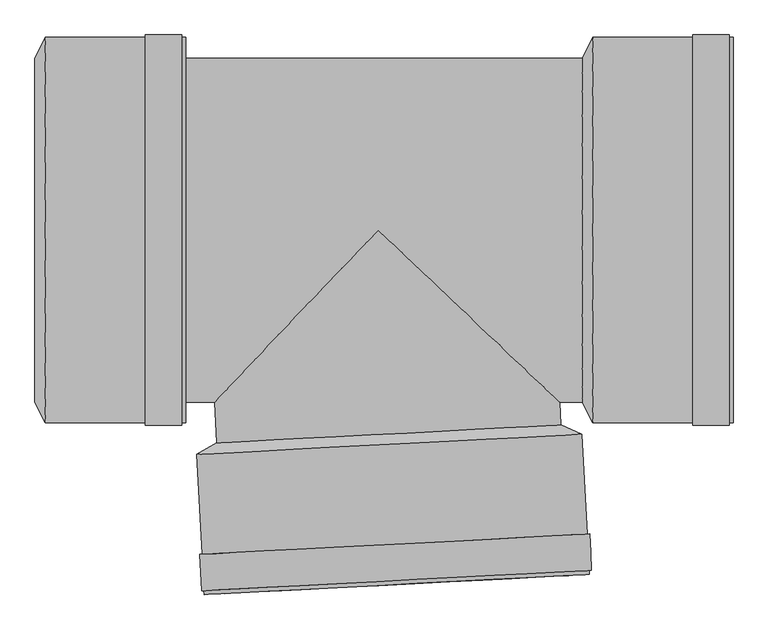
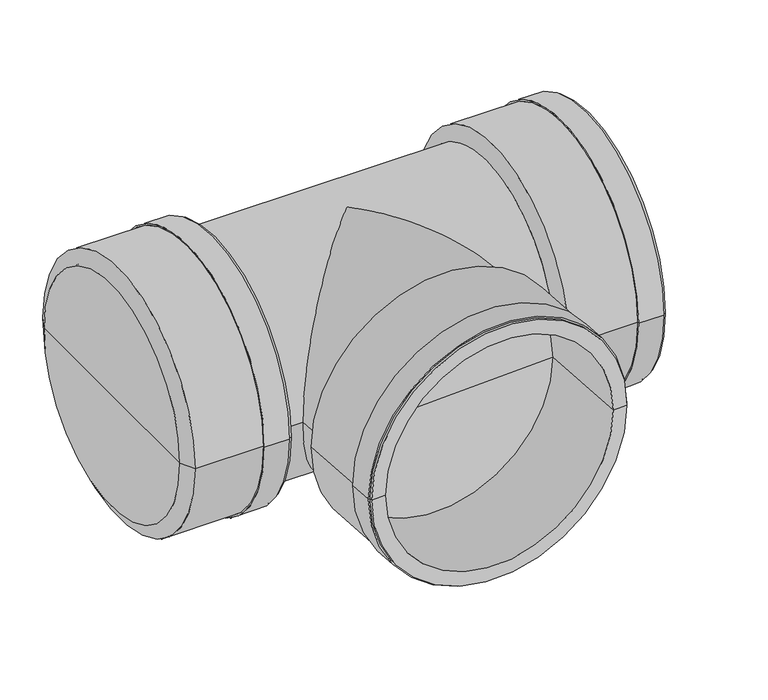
"""IFC4 building model written with IfcOpenShell, lengths in millimetres: pipe fitting geometry, pf_KGEA : pf_KGEA."""

from ifc_helpers import new_model, si_unit, frame, origin, place, context, project, spatial, polyline, circle_curve, ellipse_curve, source, transform, mapped, element, save
from ifc_brep_helpers import plane_surface, cylinder_surface, revolved_surface, advanced_brep


def pipe_fitting_98616ae5(model_context):
    return source(origin(), model_context, "Body", "AdvancedBrep", [
        advanced_brep(
        [(-234.1397727, -309.1776461, 0.0), (265.1749947, -283.009668, 0.0), (296.0240167, -296.5136617, 0.0), (-263.4082487, -325.8322644, 0.0), (15.517611, -296.0936571, 0.0), (-252.7369472, -529.4528265, 0.0), (306.6953181, -500.1342238, 0.0), (276.6365691, -501.7095361, 0.0), (-222.6781982, -527.8775142, 0.0), (-253.0404958, -523.6607752, 0.0), (306.3917696, -494.3421725, 0.0), (-256.4358362, -523.8387175, 0.0), (309.78711, -494.1642303, 0.0), (-259.2044083, -471.0112151, 0.0), (307.0185379, -441.3367279, 0.0), (-255.8090679, -470.8332728, 0.0), (303.6231975, -441.5146701, 0.0), (-233.3494997, -324.2569521, 0.0), (265.9652677, -298.088974, 0.0), (16.307884, -311.172963, 0.0)],
        [
            (0, 1, circle_curve(frame((15.517611, -296.0936571, 0.0), z_axis=(0.05233595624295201, -0.9986295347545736, 0.0), x_axis=(0.9986295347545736, 0.05233595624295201, 0.0)), 250.0)),
            (1, 2),
            (2, 3, circle_curve(frame((16.307884, -311.172963, 0.0), z_axis=(-0.05233595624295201, 0.9986295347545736, 0.0), x_axis=(0.9986295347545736, 0.05233595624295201, 0.0)), 280.1)),
            (3, 0),
            (1, 0, circle_curve(frame((15.517611, -296.0936571, 0.0), z_axis=(0.05233595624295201, -0.9986295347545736, 0.0), x_axis=(0.9986295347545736, 0.05233595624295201, 0.0)), 250.0)),
            (3, 2, circle_curve(frame((16.307884, -311.172963, 0.0), z_axis=(-0.05233595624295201, 0.9986295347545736, 0.0), x_axis=(0.9986295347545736, 0.05233595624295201, 0.0)), 280.1)),
            (4, 1),
            (0, 4),
            (5, 6, circle_curve(frame((26.9791854, -514.7935252, 0.0), z_axis=(0.05233595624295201, -0.9986295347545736, 0.0), x_axis=(0.9986295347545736, 0.05233595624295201, 0.0)), 280.1)),
            (6, 7),
            (7, 8, circle_curve(frame((26.9791854, -514.7935252, 0.0), z_axis=(-0.05233595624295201, 0.9986295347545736, 0.0), x_axis=(0.9986295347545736, 0.05233595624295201, 0.0)), 250.0)),
            (8, 5),
            (6, 5, circle_curve(frame((26.9791854, -514.7935252, 0.0), z_axis=(0.05233595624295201, -0.9986295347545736, 0.0), x_axis=(0.9986295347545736, 0.05233595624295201, 0.0)), 280.1)),
            (8, 7, circle_curve(frame((26.9791854, -514.7935252, 0.0), z_axis=(-0.05233595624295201, 0.9986295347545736, 0.0), x_axis=(0.9986295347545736, 0.05233595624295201, 0.0)), 250.0)),
            (9, 10, circle_curve(frame((26.6756369, -509.0014739, 0.0), z_axis=(0.05233595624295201, -0.9986295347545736, 0.0), x_axis=(0.9986295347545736, 0.05233595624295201, 0.0)), 280.1)),
            (10, 6),
            (5, 9),
            (10, 9, circle_curve(frame((26.6756369, -509.0014739, 0.0), z_axis=(0.05233595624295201, -0.9986295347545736, 0.0), x_axis=(0.9986295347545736, 0.05233595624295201, 0.0)), 280.1)),
            (11, 12, circle_curve(frame((26.6756369, -509.0014739, 0.0), z_axis=(0.05233595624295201, -0.9986295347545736, 0.0), x_axis=(0.9986295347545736, 0.05233595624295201, 0.0)), 283.5)),
            (12, 10),
            (9, 11),
            (12, 11, circle_curve(frame((26.6756369, -509.0014739, 0.0), z_axis=(0.05233595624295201, -0.9986295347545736, 0.0), x_axis=(0.9986295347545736, 0.05233595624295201, 0.0)), 283.5)),
            (13, 14, circle_curve(frame((23.9070648, -456.1739715, 0.0), z_axis=(0.05233595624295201, -0.9986295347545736, 0.0), x_axis=(0.9986295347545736, 0.05233595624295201, 0.0)), 283.5)),
            (14, 12),
            (11, 13),
            (14, 13, circle_curve(frame((23.9070648, -456.1739715, 0.0), z_axis=(0.05233595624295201, -0.9986295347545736, 0.0), x_axis=(0.9986295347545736, 0.05233595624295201, 0.0)), 283.5)),
            (15, 16, circle_curve(frame((23.9070648, -456.1739715, 0.0), z_axis=(0.05233595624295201, -0.9986295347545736, 0.0), x_axis=(0.9986295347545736, 0.05233595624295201, 0.0)), 280.1)),
            (16, 14),
            (13, 15),
            (16, 15, circle_curve(frame((23.9070648, -456.1739715, 0.0), z_axis=(0.05233595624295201, -0.9986295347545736, 0.0), x_axis=(0.9986295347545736, 0.05233595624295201, 0.0)), 280.1)),
            (2, 16),
            (15, 3),
            (17, 18, circle_curve(frame((16.307884, -311.172963, 0.0), z_axis=(0.05233595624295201, -0.9986295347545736, 0.0), x_axis=(0.9986295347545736, 0.05233595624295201, 0.0)), 250.0)),
            (18, 19),
            (19, 17),
            (18, 17, circle_curve(frame((16.307884, -311.172963, 0.0), z_axis=(0.05233595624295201, -0.9986295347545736, 0.0), x_axis=(0.9986295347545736, 0.05233595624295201, 0.0)), 250.0)),
            (7, 18),
            (17, 8),
        ],
        [
            revolved_surface(polyline([(296.0240167, -296.5136617, 0.0), (265.1749947, -283.009668, 0.0)]), (15.517611, -296.0936571, 0.0), (-0.05233595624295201, 0.9986295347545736, 0.0)),
            plane_surface(frame((15.517611, -296.0936571, 0.0), z_axis=(-0.05233595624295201, 0.9986295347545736, 0.0), x_axis=(0.9986295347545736, 0.05233595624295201, 0.0))),
            plane_surface(frame((26.9791854, -514.7935252, 0.0), z_axis=(0.05233595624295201, -0.9986295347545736, 0.0), x_axis=(0.9986295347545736, 0.05233595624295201, 0.0))),
            cylinder_surface(frame((15.517611, -296.0936571, 0.0), z_axis=(-0.05233595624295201, 0.9986295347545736, 0.0), x_axis=(0.9986295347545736, 0.05233595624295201, 0.0)), 280.1),
            plane_surface(frame((26.6756369, -509.0014739, 0.0), z_axis=(0.05233595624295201, -0.9986295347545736, 0.0), x_axis=(0.9986295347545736, 0.05233595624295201, 0.0))),
            cylinder_surface(frame((15.517611, -296.0936571, 0.0), z_axis=(-0.05233595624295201, 0.9986295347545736, 0.0), x_axis=(0.9986295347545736, 0.05233595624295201, 0.0)), 283.5),
            plane_surface(frame((23.9070648, -456.1739715, 0.0), z_axis=(-0.05233595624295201, 0.9986295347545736, 0.0), x_axis=(0.9986295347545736, 0.05233595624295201, 0.0))),
            plane_surface(frame((16.307884, -311.172963, 0.0), z_axis=(0.05233595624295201, -0.9986295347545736, 0.0), x_axis=(0.9986295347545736, 0.05233595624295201, 0.0))),
            revolved_surface(polyline([(265.96526762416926, -298.0889739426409, 0.0), (276.6365691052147, -501.70953613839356, 0.0)]), (15.517611, -296.0936571, 0.0), (-0.05233595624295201, 0.9986295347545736, 0.0)),
        ],
        [
            (0, [[1, 2, 3, 4]]),
            (0, [[5, -4, 6, -2]]),
            (1, [[7, -1, 8]]),
            (1, [[-8, -5, -7]]),
            (2, [[9, 10, 11, 12]]),
            (2, [[13, -12, 14, -10]]),
            (3, [[15, 16, -9, 17]]),
            (3, [[18, -17, -13, -16]]),
            (4, [[19, 20, -15, 21]]),
            (4, [[22, -21, -18, -20]]),
            (5, [[23, 24, -19, 25]]),
            (5, [[26, -25, -22, -24]]),
            (6, [[27, 28, -23, 29]]),
            (6, [[30, -29, -26, -28]]),
            (3, [[-3, 31, -27, 32]]),
            (3, [[-6, -32, -30, -31]]),
            (7, [[33, 34, 35]]),
            (7, [[36, -35, -34]]),
            (8, [[-11, 37, -33, 38]]),
            (8, [[-14, -38, -36, -37]]),
        ],
    ),
        advanced_brep(
        [(296.5, -250.0, 0.0), (296.5, 250.0, 0.0), (311.6, 280.1, 0.0), (311.6, -280.1, 0.0), (296.5, 0.0, 0.0), (515.5, -280.1, 0.0), (515.5, 280.1, 0.0), (515.5, 250.0, 0.0), (515.5, -250.0, 0.0), (509.7, -280.1, 0.0), (509.7, 280.1, 0.0), (509.7, -283.5, 0.0), (509.7, 283.5, 0.0), (456.8, -283.5, 0.0), (456.8, 283.5, 0.0), (456.8, -280.1, 0.0), (456.8, 280.1, 0.0), (311.6, -250.0, 0.0), (311.6, 250.0, 0.0), (311.6, 0.0, 0.0)],
        [
            (0, 1, circle_curve(frame((296.5, 0.0, 0.0), z_axis=(1.0, 0.0, 0.0), x_axis=(0.0, 1.0, 0.0)), 250.0)),
            (1, 2),
            (2, 3, circle_curve(frame((311.6, 0.0, 0.0), z_axis=(-1.0, 0.0, 0.0), x_axis=(0.0, 1.0, 0.0)), 280.1)),
            (3, 0),
            (1, 0, circle_curve(frame((296.5, 0.0, 0.0), z_axis=(1.0, 0.0, 0.0), x_axis=(0.0, 1.0, 0.0)), 250.0)),
            (3, 2, circle_curve(frame((311.6, 0.0, 0.0), z_axis=(-1.0, 0.0, 0.0), x_axis=(0.0, 1.0, 0.0)), 280.1)),
            (4, 1),
            (0, 4),
            (5, 6, circle_curve(frame((515.5, 0.0, 0.0), z_axis=(1.0, 0.0, 0.0), x_axis=(0.0, 1.0, 0.0)), 280.1)),
            (6, 7),
            (7, 8, circle_curve(frame((515.5, 0.0, 0.0), z_axis=(-1.0, 0.0, 0.0), x_axis=(0.0, 1.0, 0.0)), 250.0)),
            (8, 5),
            (6, 5, circle_curve(frame((515.5, 0.0, 0.0), z_axis=(1.0, 0.0, 0.0), x_axis=(0.0, 1.0, 0.0)), 280.1)),
            (8, 7, circle_curve(frame((515.5, 0.0, 0.0), z_axis=(-1.0, 0.0, 0.0), x_axis=(0.0, 1.0, 0.0)), 250.0)),
            (9, 10, circle_curve(frame((509.7, 0.0, 0.0), z_axis=(1.0, 0.0, 0.0), x_axis=(0.0, 1.0, 0.0)), 280.1)),
            (10, 6),
            (5, 9),
            (10, 9, circle_curve(frame((509.7, 0.0, 0.0), z_axis=(1.0, 0.0, 0.0), x_axis=(0.0, 1.0, 0.0)), 280.1)),
            (11, 12, circle_curve(frame((509.7, 0.0, 0.0), z_axis=(1.0, 0.0, 0.0), x_axis=(0.0, 1.0, 0.0)), 283.5)),
            (12, 10),
            (9, 11),
            (12, 11, circle_curve(frame((509.7, 0.0, 0.0), z_axis=(1.0, 0.0, 0.0), x_axis=(0.0, 1.0, 0.0)), 283.5)),
            (13, 14, circle_curve(frame((456.8, 0.0, 0.0), z_axis=(1.0, 0.0, 0.0), x_axis=(0.0, 1.0, 0.0)), 283.5)),
            (14, 12),
            (11, 13),
            (14, 13, circle_curve(frame((456.8, 0.0, 0.0), z_axis=(1.0, 0.0, 0.0), x_axis=(0.0, 1.0, 0.0)), 283.5)),
            (15, 16, circle_curve(frame((456.8, 0.0, 0.0), z_axis=(1.0, 0.0, 0.0), x_axis=(0.0, 1.0, 0.0)), 280.1)),
            (16, 14),
            (13, 15),
            (16, 15, circle_curve(frame((456.8, 0.0, 0.0), z_axis=(1.0, 0.0, 0.0), x_axis=(0.0, 1.0, 0.0)), 280.1)),
            (2, 16),
            (15, 3),
            (17, 18, circle_curve(frame((311.6, 0.0, 0.0), z_axis=(1.0, 0.0, 0.0), x_axis=(0.0, 1.0, 0.0)), 250.0)),
            (18, 19),
            (19, 17),
            (18, 17, circle_curve(frame((311.6, 0.0, 0.0), z_axis=(1.0, 0.0, 0.0), x_axis=(0.0, 1.0, 0.0)), 250.0)),
            (7, 18),
            (17, 8),
        ],
        [
            revolved_surface(polyline([(311.6, 280.1, 0.0), (296.5, 250.0, 0.0)]), (296.5, 0.0, 0.0), (-1.0, 0.0, 0.0)),
            plane_surface(frame((296.5, 0.0, 0.0), z_axis=(-1.0, 0.0, 0.0), x_axis=(0.0, 1.0, 0.0))),
            plane_surface(frame((515.5, 0.0, 0.0), z_axis=(1.0, 0.0, 0.0), x_axis=(0.0, 1.0, 0.0))),
            cylinder_surface(frame((296.5, 0.0, 0.0), z_axis=(-1.0, 0.0, 0.0), x_axis=(0.0, 1.0, 0.0)), 280.1),
            plane_surface(frame((509.7, 0.0, 0.0), z_axis=(1.0, 0.0, 0.0), x_axis=(0.0, 1.0, 0.0))),
            cylinder_surface(frame((296.5, 0.0, 0.0), z_axis=(-1.0, 0.0, 0.0), x_axis=(0.0, 1.0, 0.0)), 283.5),
            plane_surface(frame((456.8, 0.0, 0.0), z_axis=(-1.0, 0.0, 0.0), x_axis=(0.0, 1.0, 0.0))),
            plane_surface(frame((311.6, 0.0, 0.0), z_axis=(1.0, 0.0, 0.0), x_axis=(0.0, 1.0, 0.0))),
            revolved_surface(polyline([(311.6, 250.0, 0.0), (515.5, 250.0, 0.0)]), (296.5, 0.0, 0.0), (-1.0, 0.0, 0.0)),
        ],
        [
            (0, [[1, 2, 3, 4]]),
            (0, [[5, -4, 6, -2]]),
            (1, [[7, -1, 8]]),
            (1, [[-8, -5, -7]]),
            (2, [[9, 10, 11, 12]]),
            (2, [[13, -12, 14, -10]]),
            (3, [[15, 16, -9, 17]]),
            (3, [[18, -17, -13, -16]]),
            (4, [[19, 20, -15, 21]]),
            (4, [[22, -21, -18, -20]]),
            (5, [[23, 24, -19, 25]]),
            (5, [[26, -25, -22, -24]]),
            (6, [[27, 28, -23, 29]]),
            (6, [[30, -29, -26, -28]]),
            (3, [[-3, 31, -27, 32]]),
            (3, [[-6, -32, -30, -31]]),
            (7, [[33, 34, 35]]),
            (7, [[36, -35, -34]]),
            (8, [[-11, 37, -33, 38]]),
            (8, [[-14, -38, -36, -37]]),
        ],
    ),
        advanced_brep(
        [(-498.6, -250.0, 0.0), (-498.6, 250.0, 0.0), (-483.5, 280.1, 0.0), (-483.5, -280.1, 0.0), (-498.6, 0.0, 0.0), (-279.6, -280.1, 0.0), (-279.6, 280.1, 0.0), (-279.6, 250.0, 0.0), (-279.6, -250.0, 0.0), (-285.4, -280.1, 0.0), (-285.4, 280.1, 0.0), (-285.4, -283.5, 0.0), (-285.4, 283.5, 0.0), (-338.3, -283.5, 0.0), (-338.3, 283.5, 0.0), (-338.3, -280.1, 0.0), (-338.3, 280.1, 0.0), (-483.5, -250.0, 0.0), (-483.5, 250.0, 0.0), (-483.5, 0.0, 0.0)],
        [
            (0, 1, circle_curve(frame((-498.6, 0.0, 0.0), z_axis=(1.0, 0.0, 0.0), x_axis=(0.0, 1.0, 0.0)), 250.0)),
            (1, 2),
            (2, 3, circle_curve(frame((-483.5, 0.0, 0.0), z_axis=(-1.0, 0.0, 0.0), x_axis=(0.0, 1.0, 0.0)), 280.1)),
            (3, 0),
            (1, 0, circle_curve(frame((-498.6, 0.0, 0.0), z_axis=(1.0, 0.0, 0.0), x_axis=(0.0, 1.0, 0.0)), 250.0)),
            (3, 2, circle_curve(frame((-483.5, 0.0, 0.0), z_axis=(-1.0, 0.0, 0.0), x_axis=(0.0, 1.0, 0.0)), 280.1)),
            (4, 1),
            (0, 4),
            (5, 6, circle_curve(frame((-279.6, 0.0, 0.0), z_axis=(1.0, 0.0, 0.0), x_axis=(0.0, 1.0, 0.0)), 280.1)),
            (6, 7),
            (7, 8, circle_curve(frame((-279.6, 0.0, 0.0), z_axis=(-1.0, 0.0, 0.0), x_axis=(0.0, 1.0, 0.0)), 250.0)),
            (8, 5),
            (6, 5, circle_curve(frame((-279.6, 0.0, 0.0), z_axis=(1.0, 0.0, 0.0), x_axis=(0.0, 1.0, 0.0)), 280.1)),
            (8, 7, circle_curve(frame((-279.6, 0.0, 0.0), z_axis=(-1.0, 0.0, 0.0), x_axis=(0.0, 1.0, 0.0)), 250.0)),
            (9, 10, circle_curve(frame((-285.4, 0.0, 0.0), z_axis=(1.0, 0.0, 0.0), x_axis=(0.0, 1.0, 0.0)), 280.1)),
            (10, 6),
            (5, 9),
            (10, 9, circle_curve(frame((-285.4, 0.0, 0.0), z_axis=(1.0, 0.0, 0.0), x_axis=(0.0, 1.0, 0.0)), 280.1)),
            (11, 12, circle_curve(frame((-285.4, 0.0, 0.0), z_axis=(1.0, 0.0, 0.0), x_axis=(0.0, 1.0, 0.0)), 283.5)),
            (12, 10),
            (9, 11),
            (12, 11, circle_curve(frame((-285.4, 0.0, 0.0), z_axis=(1.0, 0.0, 0.0), x_axis=(0.0, 1.0, 0.0)), 283.5)),
            (13, 14, circle_curve(frame((-338.3, 0.0, 0.0), z_axis=(1.0, 0.0, 0.0), x_axis=(0.0, 1.0, 0.0)), 283.5)),
            (14, 12),
            (11, 13),
            (14, 13, circle_curve(frame((-338.3, 0.0, 0.0), z_axis=(1.0, 0.0, 0.0), x_axis=(0.0, 1.0, 0.0)), 283.5)),
            (15, 16, circle_curve(frame((-338.3, 0.0, 0.0), z_axis=(1.0, 0.0, 0.0), x_axis=(0.0, 1.0, 0.0)), 280.1)),
            (16, 14),
            (13, 15),
            (16, 15, circle_curve(frame((-338.3, 0.0, 0.0), z_axis=(1.0, 0.0, 0.0), x_axis=(0.0, 1.0, 0.0)), 280.1)),
            (2, 16),
            (15, 3),
            (17, 18, circle_curve(frame((-483.5, 0.0, 0.0), z_axis=(1.0, 0.0, 0.0), x_axis=(0.0, 1.0, 0.0)), 250.0)),
            (18, 19),
            (19, 17),
            (18, 17, circle_curve(frame((-483.5, 0.0, 0.0), z_axis=(1.0, 0.0, 0.0), x_axis=(0.0, 1.0, 0.0)), 250.0)),
            (7, 18),
            (17, 8),
        ],
        [
            revolved_surface(polyline([(-483.5, 280.1, 0.0), (-498.6, 250.0, 0.0)]), (-498.6, 0.0, 0.0), (-1.0, 0.0, 0.0)),
            plane_surface(frame((-498.6, 0.0, 0.0), z_axis=(-1.0, 0.0, 0.0), x_axis=(0.0, 1.0, 0.0))),
            plane_surface(frame((-279.6, 0.0, 0.0), z_axis=(1.0, 0.0, 0.0), x_axis=(0.0, 1.0, 0.0))),
            cylinder_surface(frame((-498.6, 0.0, 0.0), z_axis=(-1.0, 0.0, 0.0), x_axis=(0.0, 1.0, 0.0)), 280.1),
            plane_surface(frame((-285.4, 0.0, 0.0), z_axis=(1.0, 0.0, 0.0), x_axis=(0.0, 1.0, 0.0))),
            cylinder_surface(frame((-498.6, 0.0, 0.0), z_axis=(-1.0, 0.0, 0.0), x_axis=(0.0, 1.0, 0.0)), 283.5),
            plane_surface(frame((-338.3, 0.0, 0.0), z_axis=(-1.0, 0.0, 0.0), x_axis=(0.0, 1.0, 0.0))),
            plane_surface(frame((-483.5, 0.0, 0.0), z_axis=(1.0, 0.0, 0.0), x_axis=(0.0, 1.0, 0.0))),
            revolved_surface(polyline([(-483.5, 250.0, 0.0), (-279.6, 250.0, 0.0)]), (-498.6, 0.0, 0.0), (-1.0, 0.0, 0.0)),
        ],
        [
            (0, [[1, 2, 3, 4]]),
            (0, [[5, -4, 6, -2]]),
            (1, [[7, -1, 8]]),
            (1, [[-8, -5, -7]]),
            (2, [[9, 10, 11, 12]]),
            (2, [[13, -12, 14, -10]]),
            (3, [[15, 16, -9, 17]]),
            (3, [[18, -17, -13, -16]]),
            (4, [[19, 20, -15, 21]]),
            (4, [[22, -21, -18, -20]]),
            (5, [[23, 24, -19, 25]]),
            (5, [[26, -25, -22, -24]]),
            (6, [[27, 28, -23, 29]]),
            (6, [[30, -29, -26, -28]]),
            (3, [[-3, 31, -27, 32]]),
            (3, [[-6, -32, -30, -31]]),
            (7, [[33, 34, 35]]),
            (7, [[36, -35, -34]]),
            (8, [[-11, 37, -33, 38]]),
            (8, [[-14, -38, -36, -37]]),
        ],
    ),
        advanced_brep(
        [(-483.5, -250.0, 0.0), (-483.5, 250.0, 0.0), (296.5, -250.0, 0.0), (296.5, 250.0, 0.0), (-237.2411417, -250.0, 0.0), (0.0, 0.0, 250.0), (263.4450313, -250.0, 0.0), (0.0, 0.0, -250.0), (-234.1397727, -309.1776461, 0.0), (265.1749947, -283.009668, 0.0)],
        [
            (0, 1, circle_curve(frame((-483.5, 0.0, 0.0), z_axis=(-1.0, 0.0, 0.0), x_axis=(0.0, 1.0, 0.0)), 250.0)),
            (1, 0, circle_curve(frame((-483.5, 0.0, 0.0), z_axis=(-1.0, 0.0, 0.0), x_axis=(0.0, 1.0, 0.0)), 250.0)),
            (2, 3, circle_curve(frame((296.5, 0.0, 0.0), z_axis=(1.0, 0.0, 0.0), x_axis=(0.0, 1.0, 0.0)), 250.0)),
            (3, 2, circle_curve(frame((296.5, 0.0, 0.0), z_axis=(1.0, 0.0, 0.0), x_axis=(0.0, 1.0, 0.0)), 250.0)),
            (0, 4),
            (4, 5, ellipse_curve(frame((0.0, 0.0, 0.0), z_axis=(-0.7253743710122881, 0.6883545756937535, 0.0), x_axis=(-0.6883545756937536, -0.7253743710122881, 0.0)), 344.6496182, 250.0)),
            (5, 6, ellipse_curve(frame((0.0, 0.0, 0.0), z_axis=(0.6883545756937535, 0.7253743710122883, 0.0), x_axis=(-0.7253743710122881, 0.6883545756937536, 0.0)), 363.1849178, 250.0)),
            (6, 2),
            (3, 1),
            (6, 7, ellipse_curve(frame((0.0, 0.0, 0.0), z_axis=(0.6883545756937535, 0.7253743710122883, 0.0), x_axis=(-0.7253743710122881, 0.6883545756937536, 0.0)), 363.1849178, 250.0)),
            (7, 4, ellipse_curve(frame((0.0, 0.0, 0.0), z_axis=(-0.7253743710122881, 0.6883545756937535, 0.0), x_axis=(-0.6883545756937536, -0.7253743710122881, 0.0)), 344.6496182, 250.0)),
            (8, 9, circle_curve(frame((15.517611, -296.0936571, 0.0), z_axis=(0.052335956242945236, -0.9986295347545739, 0.0), x_axis=(0.9986295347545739, 0.052335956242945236, 0.0)), 250.0)),
            (9, 8, circle_curve(frame((15.517611, -296.0936571, 0.0), z_axis=(0.052335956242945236, -0.9986295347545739, 0.0), x_axis=(0.9986295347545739, 0.052335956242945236, 0.0)), 250.0)),
            (9, 6),
            (4, 8),
        ],
        [
            plane_surface(frame((-483.5, 0.0, 0.0), z_axis=(-1.0, 0.0, 0.0), x_axis=(0.0, 0.0, 1.0))),
            plane_surface(frame((296.5, 0.0, 0.0), z_axis=(1.0, 0.0, 0.0), x_axis=(0.0, 0.0, 1.0))),
            cylinder_surface(frame((-483.5, 0.0, 0.0), z_axis=(-1.0, 0.0, 0.0), x_axis=(0.0, 1.0, 0.0)), 250.0),
            plane_surface(frame((15.517611, -296.0936571, 0.0), z_axis=(0.05233595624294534, -0.9986295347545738, 0.0), x_axis=(0.0, 0.0, 1.0))),
            cylinder_surface(frame((0.0, 0.0, 0.0), z_axis=(-0.052335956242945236, 0.9986295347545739, 0.0), x_axis=(0.9986295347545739, 0.052335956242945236, 0.0)), 250.0),
        ],
        [
            (0, [[1, 2]]),
            (1, [[3, 4]]),
            (2, [[-1, 5, 6, 7, 8, -4, 9]]),
            (2, [[-2, -9, -3, -8, 10, 11, -5]]),
            (3, [[12, 13]]),
            (4, [[-13, 14, -7, -6, 15]]),
            (4, [[-12, -15, -11, -10, -14]]),
        ],
    ),
    ])


if __name__ == "__main__":
    model = new_model("IFC4")
    model_context = context("Model", 3, world=origin())
    ifc_project = project(units=[si_unit("LENGTHUNIT", "METRE", prefix="MILLI")], contexts=[model_context])
    site = spatial("IfcSite", under=ifc_project)
    building = spatial("IfcBuilding", under=site)
    placement = place(None, origin())
    pipe_fitting_shape = pipe_fitting_98616ae5(model_context)
    element("IfcPipeFitting", 1, ObjectType="pf_KGEA : pf_KGEA", at=placement, inside=building, context=model_context, shape_type="MappedRepresentation", body=[
        mapped(pipe_fitting_shape, transform((0.0, 0.0, 0.0), x_axis=(1.0, 0.0, 0.0), y_axis=(0.0, 1.0, 0.0), z_axis=(0.0, 0.0, 1.0))),
    ])
    save(model, "model.ifc")
